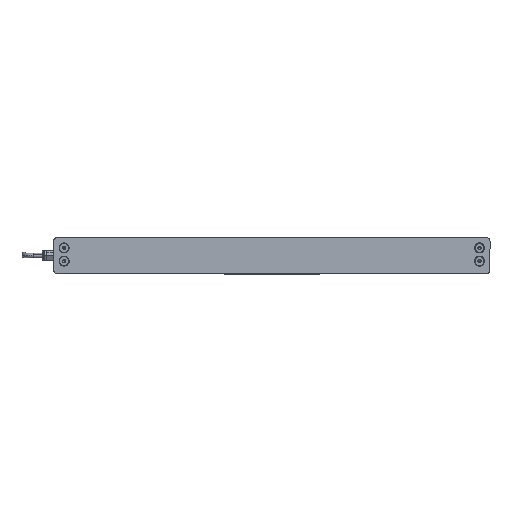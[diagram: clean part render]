
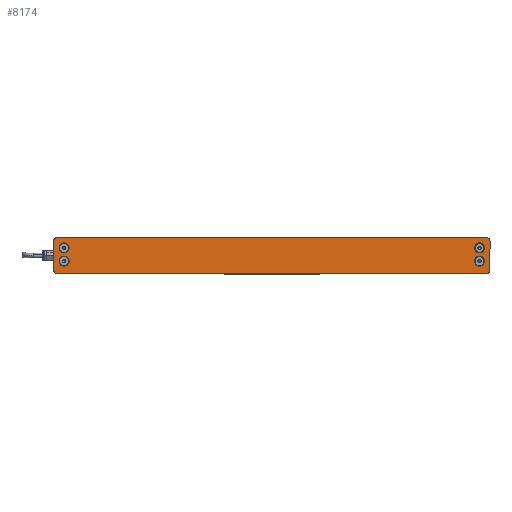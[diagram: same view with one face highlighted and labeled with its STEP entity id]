
A CAD part, left-side view. The second image highlights one B-rep face of the part: STEP entity #8174.
In plain terms, the highlighted planar face has unit normal (-1, 0, 0) as drawn and (0, 0, -1) by its records, which use the part's own axes.
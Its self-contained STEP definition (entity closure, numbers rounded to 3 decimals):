
#511 = DIRECTION ( 'NONE',  ( -1., 0., 0. ) ) ;
#629 = DIRECTION ( 'NONE',  ( -1., 0., 0. ) ) ;
#949 = EDGE_CURVE ( 'NONE', #18986, #12258, #13829, .T. ) ;
#1095 = DIRECTION ( 'NONE',  ( 0., 0., -1. ) ) ;
#1283 = VERTEX_POINT ( 'NONE', #14325 ) ;
#1456 = EDGE_LOOP ( 'NONE', ( #12066, #10637 ) ) ;
#1639 = CARTESIAN_POINT ( 'NONE',  ( -243., -16., 0. ) ) ;
#1695 = CIRCLE ( 'NONE', #5075, 5.6 ) ;
#1969 = CIRCLE ( 'NONE', #18799, 5.6 ) ;
#2236 = CARTESIAN_POINT ( 'NONE',  ( -239., -16., 0. ) ) ;
#2342 = LINE ( 'NONE', #22864, #15632 ) ;
#2417 = DIRECTION ( 'NONE',  ( -1., 0., 0. ) ) ;
#2613 = CIRCLE ( 'NONE', #19456, 5.6 ) ;
#2830 = DIRECTION ( 'NONE',  ( -1., 0., 0. ) ) ;
#2842 = DIRECTION ( 'NONE',  ( 0., 0., -1. ) ) ;
#2894 = ORIENTED_EDGE ( 'NONE', *, *, #6496, .F. ) ;
#3005 = AXIS2_PLACEMENT_3D ( 'NONE', #14593, #18677, #629 ) ;
#3069 = ORIENTED_EDGE ( 'NONE', *, *, #949, .F. ) ;
#3125 = VERTEX_POINT ( 'NONE', #4457 ) ;
#3351 = CIRCLE ( 'NONE', #24799, 4. ) ;
#3479 = CIRCLE ( 'NONE', #15282, 4. ) ;
#3658 = EDGE_CURVE ( 'NONE', #8634, #6131, #1969, .T. ) ;
#3781 = ORIENTED_EDGE ( 'NONE', *, *, #13677, .F. ) ;
#3857 = ORIENTED_EDGE ( 'NONE', *, *, #6910, .F. ) ;
#4404 = EDGE_LOOP ( 'NONE', ( #3781, #11778, #25200, #3857, #3069, #17165, #15497, #25837 ) ) ;
#4457 = CARTESIAN_POINT ( 'NONE',  ( 236.9, -6.3, 0. ) ) ;
#4665 = CARTESIAN_POINT ( 'NONE',  ( -225.7, -6.3, 0. ) ) ;
#4906 = DIRECTION ( 'NONE',  ( -1., 0., 0. ) ) ;
#5075 = AXIS2_PLACEMENT_3D ( 'NONE', #10931, #20783, #8712 ) ;
#5152 = VECTOR ( 'NONE', #13717, 1000. ) ;
#5356 = AXIS2_PLACEMENT_3D ( 'NONE', #22929, #25164, #4906 ) ;
#5439 = EDGE_CURVE ( 'NONE', #19287, #3125, #20648, .T. ) ;
#6034 = LINE ( 'NONE', #16408, #22279 ) ;
#6131 = VERTEX_POINT ( 'NONE', #20424 ) ;
#6436 = EDGE_LOOP ( 'NONE', ( #15416, #2894 ) ) ;
#6490 = AXIS2_PLACEMENT_3D ( 'NONE', #22545, #12316, #14661 ) ;
#6496 = EDGE_CURVE ( 'NONE', #3125, #19287, #8533, .T. ) ;
#6527 = EDGE_CURVE ( 'NONE', #8702, #18014, #2342, .T. ) ;
#6528 = EDGE_CURVE ( 'NONE', #18014, #25780, #14381, .T. ) ;
#6642 = FACE_BOUND ( 'NONE', #1456, .T. ) ;
#6774 = FACE_BOUND ( 'NONE', #11668, .T. ) ;
#6910 = EDGE_CURVE ( 'NONE', #12258, #12759, #25554, .T. ) ;
#7142 = VERTEX_POINT ( 'NONE', #10703 ) ;
#8076 = CARTESIAN_POINT ( 'NONE',  ( 239., -16., 0. ) ) ;
#8174 = ADVANCED_FACE ( 'NONE', ( #14538, #24259, #6642, #6774, #22670 ), #20339, .T. ) ;
#8441 = CARTESIAN_POINT ( 'NONE',  ( 243., 16., 0. ) ) ;
#8533 = CIRCLE ( 'NONE', #20289, 5.6 ) ;
#8634 = VERTEX_POINT ( 'NONE', #10018 ) ;
#8702 = VERTEX_POINT ( 'NONE', #16960 ) ;
#8704 = CARTESIAN_POINT ( 'NONE',  ( 225.7, 8.5, 0. ) ) ;
#8712 = DIRECTION ( 'NONE',  ( -1., 0., 0. ) ) ;
#9372 = ORIENTED_EDGE ( 'NONE', *, *, #22506, .F. ) ;
#9522 = LINE ( 'NONE', #13565, #10251 ) ;
#10018 = CARTESIAN_POINT ( 'NONE',  ( -236.9, 8.5, 0. ) ) ;
#10194 = AXIS2_PLACEMENT_3D ( 'NONE', #12334, #10755, #2417 ) ;
#10251 = VECTOR ( 'NONE', #17508, 1000. ) ;
#10571 = EDGE_CURVE ( 'NONE', #6131, #8634, #1695, .T. ) ;
#10613 = EDGE_LOOP ( 'NONE', ( #9372, #24998 ) ) ;
#10637 = ORIENTED_EDGE ( 'NONE', *, *, #10571, .F. ) ;
#10667 = DIRECTION ( 'NONE',  ( -1., 0., 0. ) ) ;
#10679 = CARTESIAN_POINT ( 'NONE',  ( -231.3, -6.3, 0. ) ) ;
#10703 = CARTESIAN_POINT ( 'NONE',  ( 243., -16., 0. ) ) ;
#10755 = DIRECTION ( 'NONE',  ( 0., 0., -1. ) ) ;
#10931 = CARTESIAN_POINT ( 'NONE',  ( -231.3, 8.5, 0. ) ) ;
#11000 = AXIS2_PLACEMENT_3D ( 'NONE', #14556, #16779, #12959 ) ;
#11153 = CARTESIAN_POINT ( 'NONE',  ( 231.3, 8.5, 0. ) ) ;
#11237 = CARTESIAN_POINT ( 'NONE',  ( -239., -20., 0. ) ) ;
#11434 = CIRCLE ( 'NONE', #10194, 5.6 ) ;
#11668 = EDGE_LOOP ( 'NONE', ( #23261, #13253 ) ) ;
#11778 = ORIENTED_EDGE ( 'NONE', *, *, #12402, .F. ) ;
#11820 = DIRECTION ( 'NONE',  ( 0., 1., 0. ) ) ;
#12038 = VERTEX_POINT ( 'NONE', #8441 ) ;
#12066 = ORIENTED_EDGE ( 'NONE', *, *, #3658, .F. ) ;
#12151 = VERTEX_POINT ( 'NONE', #8704 ) ;
#12258 = VERTEX_POINT ( 'NONE', #15625 ) ;
#12316 = DIRECTION ( 'NONE',  ( 0., 0., -1. ) ) ;
#12334 = CARTESIAN_POINT ( 'NONE',  ( -231.3, -6.3, 0. ) ) ;
#12402 = EDGE_CURVE ( 'NONE', #7142, #12038, #6034, .T. ) ;
#12431 = CARTESIAN_POINT ( 'NONE',  ( 225.7, -6.3, 0. ) ) ;
#12759 = VERTEX_POINT ( 'NONE', #20460 ) ;
#12881 = VERTEX_POINT ( 'NONE', #21095 ) ;
#12959 = DIRECTION ( 'NONE',  ( -1., 0., 0. ) ) ;
#13253 = ORIENTED_EDGE ( 'NONE', *, *, #19091, .F. ) ;
#13565 = CARTESIAN_POINT ( 'NONE',  ( -243., -16., 0. ) ) ;
#13677 = EDGE_CURVE ( 'NONE', #12038, #8702, #3351, .T. ) ;
#13717 = DIRECTION ( 'NONE',  ( 1., 0., 0. ) ) ;
#13829 = CIRCLE ( 'NONE', #25615, 4. ) ;
#13967 = DIRECTION ( 'NONE',  ( -1., 0., 0. ) ) ;
#14325 = CARTESIAN_POINT ( 'NONE',  ( -236.9, -6.3, 0. ) ) ;
#14356 = DIRECTION ( 'NONE',  ( 0., 0., 1. ) ) ;
#14381 = CIRCLE ( 'NONE', #3005, 4. ) ;
#14538 = FACE_BOUND ( 'NONE', #10613, .T. ) ;
#14556 = CARTESIAN_POINT ( 'NONE',  ( 231.3, -6.3, 0. ) ) ;
#14593 = CARTESIAN_POINT ( 'NONE',  ( -239., 16., 0. ) ) ;
#14661 = DIRECTION ( 'NONE',  ( -1., 0., 0. ) ) ;
#15282 = AXIS2_PLACEMENT_3D ( 'NONE', #8076, #19910, #16075 ) ;
#15416 = ORIENTED_EDGE ( 'NONE', *, *, #5439, .F. ) ;
#15456 = AXIS2_PLACEMENT_3D ( 'NONE', #10679, #2842, #511 ) ;
#15497 = ORIENTED_EDGE ( 'NONE', *, *, #6528, .F. ) ;
#15625 = CARTESIAN_POINT ( 'NONE',  ( -239., -20., 0. ) ) ;
#15632 = VECTOR ( 'NONE', #10667, 1000. ) ;
#15738 = CARTESIAN_POINT ( 'NONE',  ( -239., 20., 0. ) ) ;
#16075 = DIRECTION ( 'NONE',  ( 1., 0., 0. ) ) ;
#16408 = CARTESIAN_POINT ( 'NONE',  ( 243., -16., 0. ) ) ;
#16548 = EDGE_CURVE ( 'NONE', #12881, #12151, #2613, .T. ) ;
#16779 = DIRECTION ( 'NONE',  ( 0., 0., -1. ) ) ;
#16960 = CARTESIAN_POINT ( 'NONE',  ( 239., 20., 0. ) ) ;
#17165 = ORIENTED_EDGE ( 'NONE', *, *, #22032, .F. ) ;
#17297 = DIRECTION ( 'NONE',  ( -1., 0., 0. ) ) ;
#17508 = DIRECTION ( 'NONE',  ( 0., -1., 0. ) ) ;
#18014 = VERTEX_POINT ( 'NONE', #15738 ) ;
#18026 = DIRECTION ( 'NONE',  ( -1., 0., 0. ) ) ;
#18236 = CARTESIAN_POINT ( 'NONE',  ( 239., 16., 0. ) ) ;
#18289 = DIRECTION ( 'NONE',  ( 0., 0., -1. ) ) ;
#18536 = CARTESIAN_POINT ( 'NONE',  ( 231.3, -6.3, 0. ) ) ;
#18677 = DIRECTION ( 'NONE',  ( 0., 0., 1. ) ) ;
#18799 = AXIS2_PLACEMENT_3D ( 'NONE', #25821, #25938, #18026 ) ;
#18986 = VERTEX_POINT ( 'NONE', #1639 ) ;
#19091 = EDGE_CURVE ( 'NONE', #25628, #1283, #11434, .T. ) ;
#19287 = VERTEX_POINT ( 'NONE', #12431 ) ;
#19456 = AXIS2_PLACEMENT_3D ( 'NONE', #11153, #1095, #17297 ) ;
#19910 = DIRECTION ( 'NONE',  ( 0., 0., 1. ) ) ;
#19957 = DIRECTION ( 'NONE',  ( -1., 0., 0. ) ) ;
#20289 = AXIS2_PLACEMENT_3D ( 'NONE', #18536, #18289, #2830 ) ;
#20339 = PLANE ( 'NONE',  #6490 ) ;
#20424 = CARTESIAN_POINT ( 'NONE',  ( -225.7, 8.5, 0. ) ) ;
#20460 = CARTESIAN_POINT ( 'NONE',  ( 239., -20., 0. ) ) ;
#20644 = EDGE_CURVE ( 'NONE', #12759, #7142, #3479, .T. ) ;
#20648 = CIRCLE ( 'NONE', #11000, 5.6 ) ;
#20783 = DIRECTION ( 'NONE',  ( 0., 0., -1. ) ) ;
#21095 = CARTESIAN_POINT ( 'NONE',  ( 236.9, 8.5, 0. ) ) ;
#22032 = EDGE_CURVE ( 'NONE', #25780, #18986, #9522, .T. ) ;
#22279 = VECTOR ( 'NONE', #11820, 1000. ) ;
#22506 = EDGE_CURVE ( 'NONE', #12151, #12881, #25532, .T. ) ;
#22545 = CARTESIAN_POINT ( 'NONE',  ( 239., 16., 0. ) ) ;
#22670 = FACE_OUTER_BOUND ( 'NONE', #4404, .T. ) ;
#22864 = CARTESIAN_POINT ( 'NONE',  ( -239., 20., 0. ) ) ;
#22929 = CARTESIAN_POINT ( 'NONE',  ( 231.3, 8.5, 0. ) ) ;
#22941 = CARTESIAN_POINT ( 'NONE',  ( -243., 16., 0. ) ) ;
#23101 = EDGE_CURVE ( 'NONE', #1283, #25628, #23852, .T. ) ;
#23261 = ORIENTED_EDGE ( 'NONE', *, *, #23101, .F. ) ;
#23852 = CIRCLE ( 'NONE', #15456, 5.6 ) ;
#24259 = FACE_BOUND ( 'NONE', #6436, .T. ) ;
#24799 = AXIS2_PLACEMENT_3D ( 'NONE', #18236, #25883, #19957 ) ;
#24998 = ORIENTED_EDGE ( 'NONE', *, *, #16548, .F. ) ;
#25164 = DIRECTION ( 'NONE',  ( 0., 0., -1. ) ) ;
#25200 = ORIENTED_EDGE ( 'NONE', *, *, #20644, .F. ) ;
#25532 = CIRCLE ( 'NONE', #5356, 5.6 ) ;
#25554 = LINE ( 'NONE', #11237, #5152 ) ;
#25615 = AXIS2_PLACEMENT_3D ( 'NONE', #2236, #14356, #13967 ) ;
#25628 = VERTEX_POINT ( 'NONE', #4665 ) ;
#25780 = VERTEX_POINT ( 'NONE', #22941 ) ;
#25821 = CARTESIAN_POINT ( 'NONE',  ( -231.3, 8.5, 0. ) ) ;
#25837 = ORIENTED_EDGE ( 'NONE', *, *, #6527, .F. ) ;
#25883 = DIRECTION ( 'NONE',  ( 0., 0., 1. ) ) ;
#25938 = DIRECTION ( 'NONE',  ( 0., 0., -1. ) ) ;
